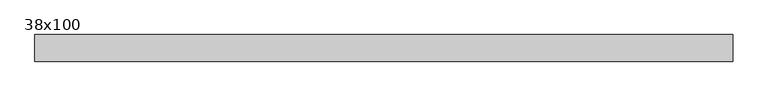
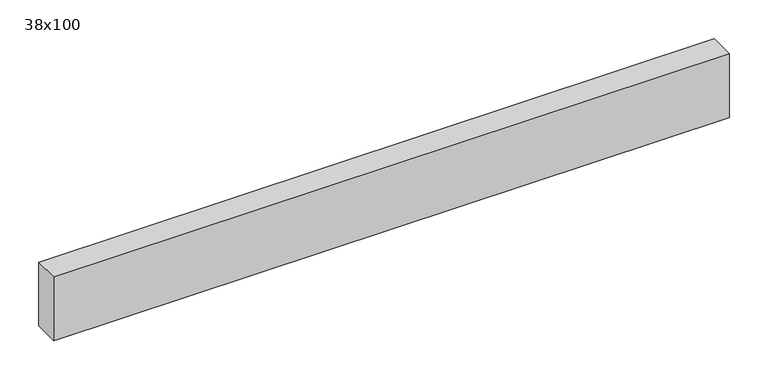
"""IFC4 building model written with IfcOpenShell, lengths in millimetres: beam geometry, Poutre - Bois de construction de dimensions courantes : 38x100."""

from ifc_helpers import new_model, si_unit, frame, origin, place, context, project, spatial, polyline, outline, extrude, source, transform, mapped, element, save


def beam_38x100_60612163(model_context):
    return source(origin(), model_context, "Body", "SweptSolid", [
        extrude(outline(polyline([(420.0, 19.05), (420.0, -19.05), (-580.0, -19.05), (-580.0, 19.05), (420.0, 19.05)])), frame((0.0, 0.0, -50.0), z_axis=(0.0, 0.0, 1.0), x_axis=(1.0, 0.0, 0.0)), (0.0, 0.0, 1.0), 100.0),
    ])


if __name__ == "__main__":
    model = new_model("IFC4")
    model_context = context("Model", 3, world=origin())
    ifc_project = project(units=[si_unit("LENGTHUNIT", "METRE", prefix="MILLI")], contexts=[model_context])
    site = spatial("IfcSite", under=ifc_project)
    building = spatial("IfcBuilding", under=site)
    placement = place(None, origin())
    beam_38x100_shape = beam_38x100_60612163(model_context)
    element("IfcBeam", 1, ObjectType="Poutre - Bois de construction de dimensions courantes : 38x100", at=placement, inside=building, context=model_context, shape_type="MappedRepresentation", body=[
        mapped(beam_38x100_shape, transform((0.0, 0.0, 0.0), x_axis=(1.0, 0.0, 0.0), y_axis=(0.0, 1.0, 0.0), z_axis=(0.0, 0.0, 1.0))),
    ])
    save(model, "model.ifc")
